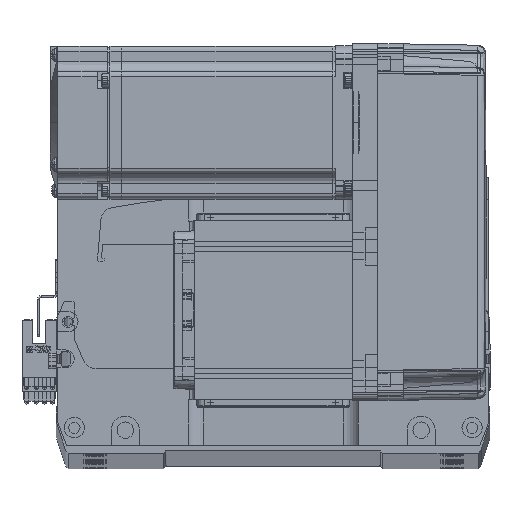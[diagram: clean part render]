
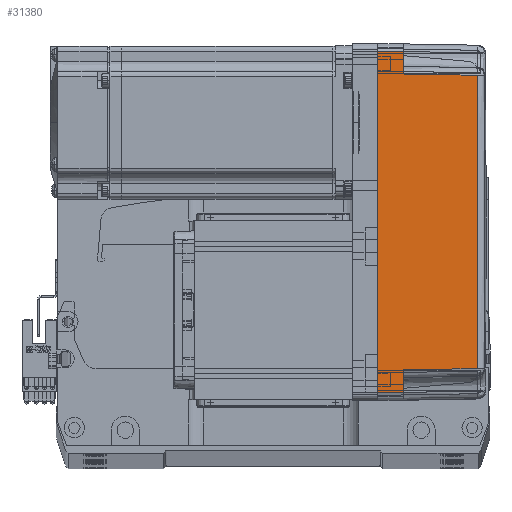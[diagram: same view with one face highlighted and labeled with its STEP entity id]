
A CAD part, top view. The second image highlights one B-rep face of the part: STEP entity #31380.
In plain terms, the highlighted planar face has unit normal (0.018, 0, 1) as drawn and (0, -1, 0.017) by its records, which use the part's own axes.
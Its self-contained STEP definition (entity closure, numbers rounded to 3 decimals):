
#454 = VERTEX_POINT ( 'NONE', #57013 ) ;
#846 = CARTESIAN_POINT ( 'NONE',  ( 70., -35.825, 10. ) ) ;
#2320 = LINE ( 'NONE', #34475, #15426 ) ;
#2385 = EDGE_CURVE ( 'NONE', #47832, #26879, #51046, .T. ) ;
#4622 = VECTOR ( 'NONE', #9057, 1000. ) ;
#5141 = PLANE ( 'NONE',  #71726 ) ;
#5250 = FACE_OUTER_BOUND ( 'NONE', #17021, .T. ) ;
#5369 = DIRECTION ( 'NONE',  ( 0., -0.017, -1. ) ) ;
#5845 = CARTESIAN_POINT ( 'NONE',  ( 57.495, -35.32, 38.985 ) ) ;
#6965 = CARTESIAN_POINT ( 'NONE',  ( -66.959, -35.958, 2.39 ) ) ;
#7514 = LINE ( 'NONE', #6965, #46067 ) ;
#9057 = DIRECTION ( 'NONE',  ( -1., 0., 0. ) ) ;
#9650 = VERTEX_POINT ( 'NONE', #39383 ) ;
#9785 = CARTESIAN_POINT ( 'NONE',  ( -19.165, -35.316, 39.181 ) ) ;
#9892 = DIRECTION ( 'NONE',  ( -0.017, -0.017, -1. ) ) ;
#10622 = LINE ( 'NONE', #846, #18468 ) ;
#12840 = VERTEX_POINT ( 'NONE', #52572 ) ;
#15426 = VECTOR ( 'NONE', #39890, 1000. ) ;
#15832 = CARTESIAN_POINT ( 'NONE',  ( 58., -35.825, 10. ) ) ;
#17021 = EDGE_LOOP ( 'NONE', ( #18776, #71053, #39535, #64910, #28204, #72542, #63594, #43004 ) ) ;
#17709 = DIRECTION ( 'NONE',  ( -1., 0., 0. ) ) ;
#18331 = VECTOR ( 'NONE', #27099, 1000. ) ;
#18468 = VECTOR ( 'NONE', #17709, 1000. ) ;
#18776 = ORIENTED_EDGE ( 'NONE', *, *, #54231, .T. ) ;
#20975 = EDGE_CURVE ( 'NONE', #9650, #454, #10622, .T. ) ;
#22535 = VECTOR ( 'NONE', #60955, 1000. ) ;
#26879 = VERTEX_POINT ( 'NONE', #71489 ) ;
#27099 = DIRECTION ( 'NONE',  ( -0.017, 0.017, 1. ) ) ;
#28204 = ORIENTED_EDGE ( 'NONE', *, *, #36848, .T. ) ;
#29442 = DIRECTION ( 'NONE',  ( 0.017, 0.017, 1. ) ) ;
#31234 = EDGE_CURVE ( 'NONE', #26879, #45958, #49906, .T. ) ;
#31380 = ADVANCED_FACE ( 'NONE', ( #5250 ), #5141, .T. ) ;
#32107 = CARTESIAN_POINT ( 'NONE',  ( 57.495, -35.32, 38.985 ) ) ;
#33266 = CARTESIAN_POINT ( 'NONE',  ( 70., -36., 0. ) ) ;
#34475 = CARTESIAN_POINT ( 'NONE',  ( 0., -36., 0. ) ) ;
#36848 = EDGE_CURVE ( 'NONE', #46535, #9650, #54360, .T. ) ;
#38907 = DIRECTION ( 'NONE',  ( 0., -1., 0.017 ) ) ;
#39383 = CARTESIAN_POINT ( 'NONE',  ( -58., -35.825, 10. ) ) ;
#39535 = ORIENTED_EDGE ( 'NONE', *, *, #31234, .T. ) ;
#39794 = EDGE_CURVE ( 'NONE', #50478, #454, #7514, .T. ) ;
#39890 = DIRECTION ( 'NONE',  ( -1., 0., 0. ) ) ;
#43004 = ORIENTED_EDGE ( 'NONE', *, *, #71507, .F. ) ;
#45958 = VERTEX_POINT ( 'NONE', #5845 ) ;
#46067 = VECTOR ( 'NONE', #29442, 1000. ) ;
#46535 = VERTEX_POINT ( 'NONE', #63823 ) ;
#47832 = VERTEX_POINT ( 'NONE', #69589 ) ;
#48006 = CARTESIAN_POINT ( 'NONE',  ( 70., -35.825, 10. ) ) ;
#49906 = LINE ( 'NONE', #15832, #18331 ) ;
#50478 = VERTEX_POINT ( 'NONE', #60552 ) ;
#51046 = LINE ( 'NONE', #48006, #4622 ) ;
#51811 = EDGE_CURVE ( 'NONE', #45958, #46535, #61121, .T. ) ;
#52572 = CARTESIAN_POINT ( 'NONE',  ( 67., -36., 0. ) ) ;
#54231 = EDGE_CURVE ( 'NONE', #12840, #47832, #66376, .T. ) ;
#54360 = LINE ( 'NONE', #70072, #67453 ) ;
#54860 = CARTESIAN_POINT ( 'NONE',  ( -57.495, -35.32, 38.985 ) ) ;
#57013 = CARTESIAN_POINT ( 'NONE',  ( -66.826, -35.825, 10. ) ) ;
#60214 = CARTESIAN_POINT ( 'NONE',  ( 19.165, -35.316, 39.181 ) ) ;
#60552 = CARTESIAN_POINT ( 'NONE',  ( -67., -36., 0. ) ) ;
#60955 = DIRECTION ( 'NONE',  ( -0.017, 0.017, 1. ) ) ;
#61121 = B_SPLINE_CURVE_WITH_KNOTS ( 'NONE', 3,
 ( #32107, #60214, #9785, #54860 ),
 .UNSPECIFIED., .F., .F.,
 ( 4, 4 ),
 ( 0., 1. ),
 .UNSPECIFIED. ) ;
#63594 = ORIENTED_EDGE ( 'NONE', *, *, #39794, .F. ) ;
#63823 = CARTESIAN_POINT ( 'NONE',  ( -57.495, -35.32, 38.985 ) ) ;
#64910 = ORIENTED_EDGE ( 'NONE', *, *, #51811, .T. ) ;
#66376 = LINE ( 'NONE', #71440, #22535 ) ;
#67453 = VECTOR ( 'NONE', #9892, 1000. ) ;
#69589 = CARTESIAN_POINT ( 'NONE',  ( 66.826, -35.825, 10. ) ) ;
#70072 = CARTESIAN_POINT ( 'NONE',  ( -57.495, -35.32, 38.985 ) ) ;
#71053 = ORIENTED_EDGE ( 'NONE', *, *, #2385, .T. ) ;
#71440 = CARTESIAN_POINT ( 'NONE',  ( 67., -36., 0. ) ) ;
#71489 = CARTESIAN_POINT ( 'NONE',  ( 58., -35.825, 10. ) ) ;
#71507 = EDGE_CURVE ( 'NONE', #12840, #50478, #2320, .T. ) ;
#71726 = AXIS2_PLACEMENT_3D ( 'NONE', #33266, #38907, #5369 ) ;
#72542 = ORIENTED_EDGE ( 'NONE', *, *, #20975, .T. ) ;
